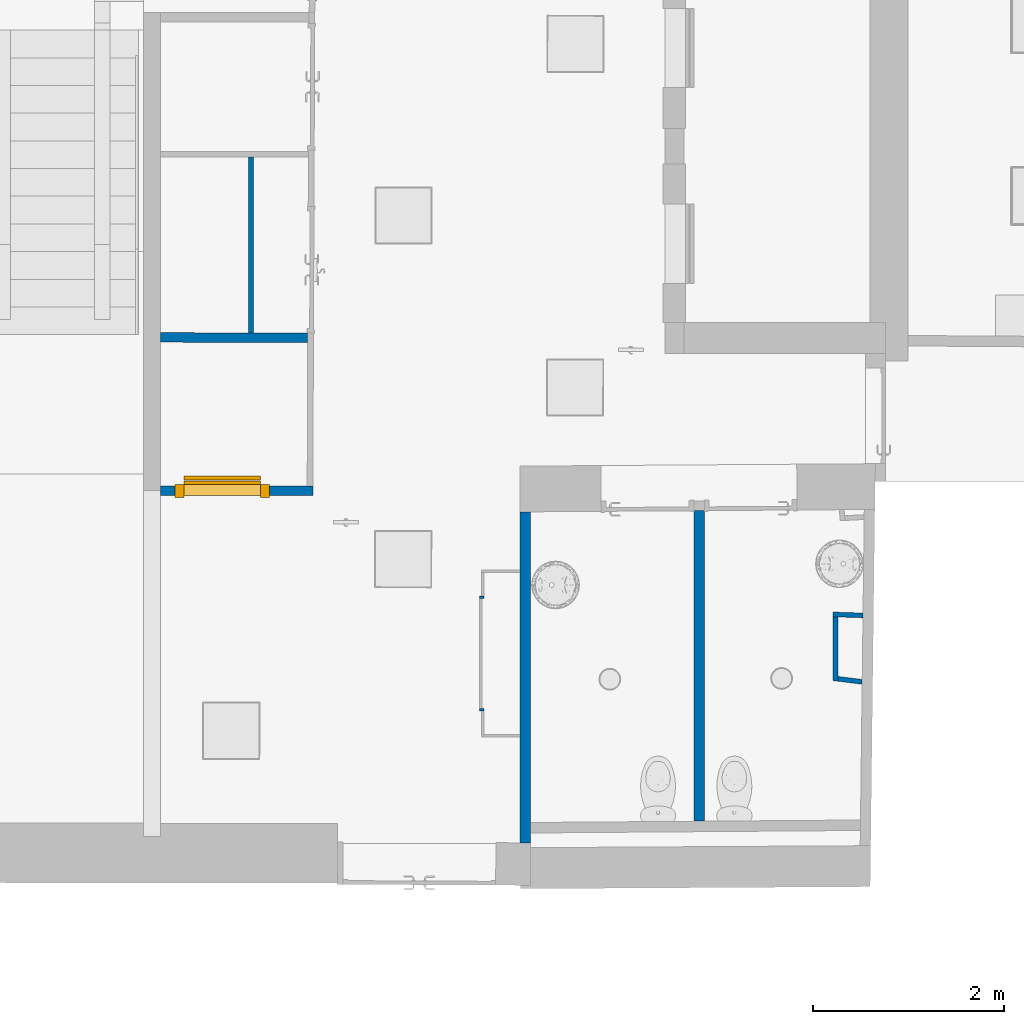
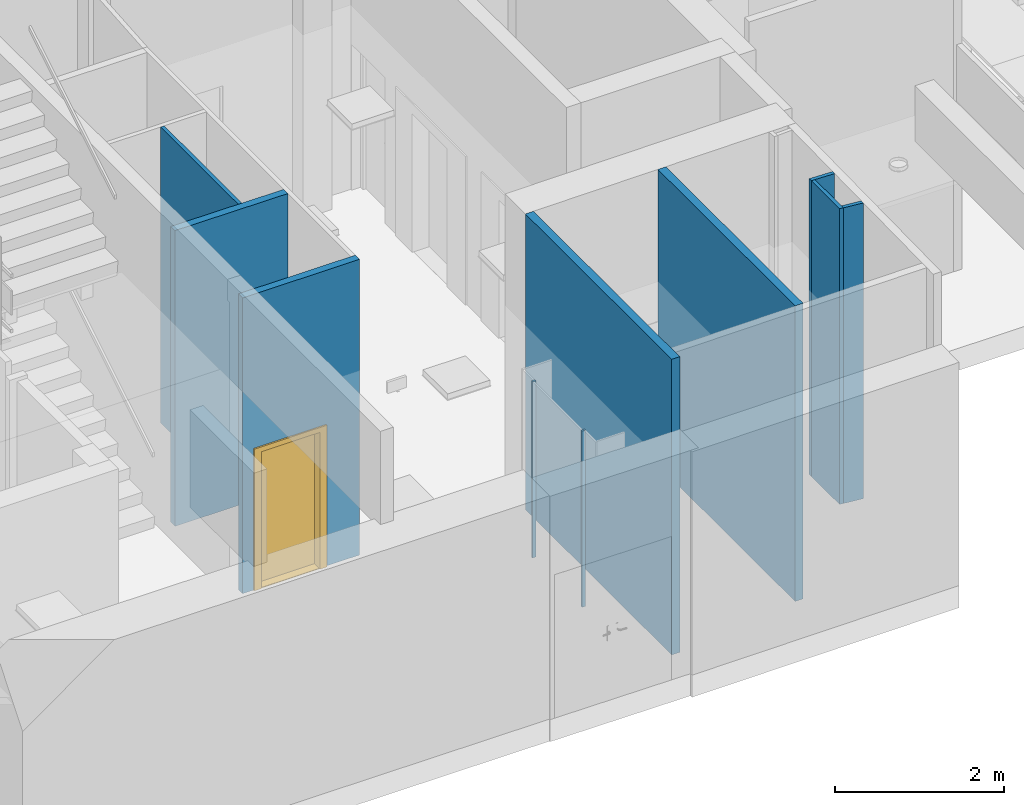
# One storey, part 28 of 128: 10 walls, 1 door, 1 opening.
"""IFC2X3 building model written with IfcOpenShell, lengths in metres."""

from ifc_helpers import new_model, entity, si_unit, converted_unit, derived_unit, direction, frame, frame_2d, origin, origin_2d_with_axis, place, context, subcontext, project, spatial, polyline, rectangle, outline, extrude, source, transform, mapped, material, layer, layer_set, layer_usage, type_object, type_shapes, element, fill, save


model = new_model("IFC2X3")

# Units and contexts
model_context = context("Model", 3, precision=1e-05, world=origin(), true_north=direction((6.123031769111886e-17, 1.0)))
body_context = subcontext(model_context, "Body", "Model", "MODEL_VIEW")
ifc_project = project(units=[si_unit("LENGTHUNIT", "METRE"), si_unit("AREAUNIT", "SQUARE_METRE"), converted_unit("PLANEANGLEUNIT", "DEGREE", entity("IfcPlaneAngleMeasure", 0.017453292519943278), si_unit("PLANEANGLEUNIT", "RADIAN"), dimensions=[0, 0, 0, 0, 0, 0, 0]), derived_unit("THERMALTRANSMITTANCEUNIT", [(si_unit("MASSUNIT", "GRAM", prefix="KILO"), 1), (si_unit("THERMODYNAMICTEMPERATUREUNIT", "KELVIN"), -1), (si_unit("TIMEUNIT", "SECOND"), -3)])], contexts=[model_context])

# Site, building, storey
site_placement = place(None, origin())
site = spatial("IfcSite", under=ifc_project, at=site_placement, Name="Default", CompositionType="ELEMENT")
building_placement = place(site_placement, origin())
building = spatial("IfcBuilding", under=site, at=building_placement, CompositionType="ELEMENT")
storey_placement = place(building_placement, origin())
storey = spatial("IfcBuildingStorey", under=building, at=storey_placement, Name="00_RDC CAF", CompositionType="ELEMENT", Elevation=2.4982504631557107e-13)

# Wall, opening, door
ifc_material_1 = material(Name="ARC - Cloison")
ifc_layer_1 = layer(ifc_material_1, 0.1)
ifc_layer_set_1 = layer_set([ifc_layer_1], Name="Mur de base:Cl_Platre_100mm")
ifc_layer_usage_1 = layer_usage(ifc_layer_set_1, "AXIS2", "POSITIVE", -0.05)
wall_type_1 = type_object("IfcWallType", Name="Mur de base:Cl_Platre_100mm", PredefinedType="STANDARD", material=ifc_layer_set_1)
wall_1_placement = place(storey_placement, frame((23.059127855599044, 130.11823933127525, 0.0)))
wall_1 = element("IfcWallStandardCase", 1, at=wall_1_placement, inside=storey, type_object=wall_type_1, material=ifc_layer_usage_1, Name="Mur de base:Cl_Platre_100mm", ObjectType="Mur de base:Cl_Platre_100mm", context=body_context, shape_type="SweptSolid", body=[
    extrude(outline(polyline([(0.0, -0.04999999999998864), (1.5963175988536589, -0.04999999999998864), (1.5966989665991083, 0.050000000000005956), (1.5366985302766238, 0.050000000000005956), (0.0, 0.050000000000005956), (0.0, 0.0), (0.0, -0.04999999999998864)])), origin(), (0.0, 0.0, 1.0), 4.278),
])
opening_placement = place(wall_1_placement, frame((-23.059127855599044, -130.11823933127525, 0.0)))
opening = element("IfcOpeningElement", 2, at=opening_placement, cuts=wall_1, Name="Mur de base:Cl_Platre_100mm", ObjectType="Opening", context=body_context, shape_type="SweptSolid", body=[
    extrude(rectangle(XDim=2.0600000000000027, YDim=0.9900000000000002, at=origin_2d_with_axis()), frame((23.70497733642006, 130.06823933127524, 1.019999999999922), z_axis=(0.0, 1.0, 0.0), x_axis=(0.0, 0.0, -1.0)), (0.0, 0.0, 1.0), 0.0999999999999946),
])
ifc_material_2 = material(Name="ARC - M.In - Blanc")
door_style = type_object("IfcDoorStyle", Name="P_Ascenseur:P_Int_Ascenseur_800x1980mm", ConstructionType="NOTDEFINED", OperationType="NOTDEFINED", ParameterTakesPrecedence=False, Sizeable=False, material=ifc_material_2)
shared_shape = source(origin(), body_context, "Body", "SweptSolid", [
    extrude(rectangle(XDim=0.4000000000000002, YDim=0.04000000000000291, at=frame_2d((-2.7755575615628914e-17, -8.673617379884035e-18), x_axis=(1.0, 0.0))), frame((0.6949999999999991, -0.03250000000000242, 0.010000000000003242), z_axis=(0.0, 0.0, 1.0), x_axis=(-1.0, 0.0, 0.0)), (0.0, 0.0, 1.0), 1.9799999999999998),
    extrude(rectangle(XDim=0.3999999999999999, YDim=0.040000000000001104, at=frame_2d((0.0, 8.673617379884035e-18), x_axis=(1.0, 0.0))), frame((0.2949999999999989, -0.032500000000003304, 0.010000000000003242), z_axis=(0.0, 0.0, 1.0), x_axis=(-1.0, 0.0, 0.0)), (0.0, 0.0, 1.0), 1.9799999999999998),
    extrude(outline(polyline([(-0.49499999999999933, -1.0425000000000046), (0.4949999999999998, -1.0425000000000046), (0.4949999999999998, 1.0075000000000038), (0.3999999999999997, 1.0075000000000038), (0.3999999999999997, -0.9725000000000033), (-0.4000000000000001, -0.9725000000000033), (-0.4000000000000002, 1.0075000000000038), (-0.4949999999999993, 1.0075000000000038), (-0.49499999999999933, -1.0425000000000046)])), frame((0.49499999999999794, -0.012500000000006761, 1.0175000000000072), z_axis=(0.0, 1.0, 0.0), x_axis=(1.0, 0.0, 0.0)), (0.0, 0.0, 1.0), 0.13250000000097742),
    extrude(rectangle(XDim=0.39999999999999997, YDim=0.039999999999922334, at=frame_2d((0.0, 8.673617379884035e-18), x_axis=(1.0, 0.0))), frame((0.6949999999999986, -0.08249999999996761, 0.010000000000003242), z_axis=(0.0, 0.0, 1.0), x_axis=(-1.0, 0.0, 0.0)), (0.0, 0.0, 1.0), 1.9799999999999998),
    extrude(rectangle(XDim=0.39999999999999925, YDim=0.03999999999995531, at=origin_2d_with_axis()), frame((0.2949999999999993, -0.08249999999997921, 0.010000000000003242), z_axis=(0.0, 0.0, 1.0), x_axis=(-1.0, 0.0, 0.0)), (0.0, 0.0, 1.0), 1.9799999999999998),
    extrude(rectangle(XDim=0.11250000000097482, YDim=0.9899999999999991, at=origin_2d_with_axis()), frame((0.49499999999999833, 0.04375000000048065, 0.0), z_axis=(0.0, 0.0, 1.0), x_axis=(0.0, 1.0, 0.0)), (0.0, 0.0, 1.0), 0.01),
])
type_shapes(door_style, [shared_shape])
door_placement = place(opening_placement, frame((24.199977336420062, 130.16823933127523, -0.010000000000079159), z_axis=(0.0, 0.0, 1.0), x_axis=(-1.0, 0.0, 0.0)))
door = element("IfcDoor", 3, at=door_placement, inside=storey, type_object=door_style, material=ifc_material_2, Name="P_Ascenseur:P_Int_Ascenseur_800x1980mm", ObjectType="P_Ascenseur:P_Int_Ascenseur_800x1980mm", OverallHeight=2.0600000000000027, OverallWidth=0.9900000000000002, context=body_context, shape_type="MappedRepresentation", body=[
    mapped(shared_shape, transform((0.0, 0.0, 0.0), scale=1.0)),
])
fill(opening, door)

# Walls
ifc_layer_usage_2 = layer_usage(ifc_layer_set_1, "AXIS2", "NEGATIVE", 0.05)
wall_2_placement = place(storey_placement, frame((23.058937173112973, 131.724534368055, 0.0), z_axis=(0.0, 0.0, 1.0), x_axis=(0.9999927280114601, -0.0038136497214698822, 0.0)))
element("IfcWallStandardCase", 4, at=wall_2_placement, inside=storey, type_object=wall_type_1, material=ifc_layer_usage_2, Name="Mur de base:Cl_Platre_100mm", ObjectType="Mur de base:Cl_Platre_100mm", context=body_context, shape_type="SweptSolid", body=[
    extrude(outline(polyline([(1.5428132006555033, -0.049999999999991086), (1.5428132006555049, 0.05000000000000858), (0.9730070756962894, 0.049999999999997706), (0.9230067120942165, 0.0500000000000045), (0.0, 0.05000000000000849), (0.00038136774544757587, -0.04999999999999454), (1.5428132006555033, -0.049999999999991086)])), origin(), (0.0, 0.0, 1.0), 4.277999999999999),
])
ifc_layer_2 = layer(ifc_material_1, 0.11)
ifc_layer_set_2 = layer_set([ifc_layer_2], Name="Mur de base:Cl_Platre_110mm")
ifc_layer_usage_3 = layer_usage(ifc_layer_set_2, "AXIS2", "POSITIVE", -0.055)
wall_type_2 = type_object("IfcWallType", Name="Mur de base:Cl_Platre_110mm", PredefinedType="STANDARD", material=ifc_layer_set_2)
wall_3_placement = place(storey_placement, frame((26.88337558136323, 129.8966310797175, 0.0), z_axis=(0.0, 0.0, 1.0), x_axis=(0.0, -1.0, 0.0)))
element("IfcWallStandardCase", 5, at=wall_3_placement, inside=storey, type_object=wall_type_2, material=ifc_layer_usage_3, Name="Mur de base:Cl_Platre_110mm", ObjectType="Mur de base:Cl_Platre_110mm", context=body_context, shape_type="SweptSolid", body=[
    extrude(outline(polyline([(3.467844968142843, -0.05500000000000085), (3.4683795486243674, 0.05500000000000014), (3.36494781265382, 0.05500000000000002), (3.25494463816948, 0.05499999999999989), (0.0, 0.05500000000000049), (0.0007541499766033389, -0.05500000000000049), (0.6093608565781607, -0.05499999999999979), (0.634360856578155, -0.054999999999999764), (2.335360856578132, -0.05500000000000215), (2.3603608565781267, -0.05500000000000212), (3.467844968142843, -0.05500000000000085)])), origin(), (0.0, 0.0, 1.0), 4.278),
])
ifc_layer_usage_4 = layer_usage(ifc_layer_set_2, "AXIS2", "POSITIVE", -0.055)
wall_4_placement = place(storey_placement, frame((28.702724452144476, 129.90910436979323, 0.0), z_axis=(0.0, 0.0, 1.0), x_axis=(0.0, -1.0, 0.0)))
element("IfcWallStandardCase", 6, at=wall_4_placement, inside=storey, type_object=wall_type_2, material=ifc_layer_usage_4, Name="Mur de base:Cl_Platre_110mm", ObjectType="Mur de base:Cl_Platre_110mm", context=body_context, shape_type="SweptSolid", body=[
    extrude(outline(polyline([(3.254431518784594, -0.05500000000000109), (3.2535958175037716, 0.05499999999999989), (0.0, 0.05500000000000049), (0.0007541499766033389, -0.05500000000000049), (3.254431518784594, -0.05500000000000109)])), origin(), (0.0, 0.0, 1.0), 4.278),
])
ifc_layer_3 = layer(ifc_material_1, 0.05)
ifc_layer_set_3 = layer_set([ifc_layer_3], Name="Mur de base:Cl_Platre_50mm_Gaine")
ifc_layer_usage_5 = layer_usage(ifc_layer_set_3, "AXIS2", "POSITIVE", -0.025)
wall_type_3 = type_object("IfcWallType", Name="Mur de base:Cl_Platre_50mm_Gaine", PredefinedType="STANDARD", material=ifc_layer_set_3)
wall_5_placement = place(storey_placement, frame((30.420351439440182, 128.8109963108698, 0.0), z_axis=(0.0, 0.0, 1.0), x_axis=(-0.999390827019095, 0.03489949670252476, 0.0)))
element("IfcWallStandardCase", 7, at=wall_5_placement, inside=storey, type_object=wall_type_3, material=ifc_layer_usage_5, Name="Mur de base:Cl_Platre_50mm_Gaine", ObjectType="Mur de base:Cl_Platre_50mm_Gaine", context=body_context, shape_type="SweptSolid", body=[
    extrude(outline(polyline([(0.31565014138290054, -0.02500000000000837), (0.3139041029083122, 0.024999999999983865), (0.2638736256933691, 0.0249999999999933), (0.0, 0.024999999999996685), (0.0011359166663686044, -0.02500000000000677), (0.31565014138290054, -0.02500000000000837)])), origin(), (0.0, 0.0, 1.0), 4.277999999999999),
])
ifc_layer_usage_6 = layer_usage(ifc_layer_set_3, "AXIS2", "POSITIVE", -0.025)
wall_6_placement = place(storey_placement, frame((30.130766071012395, 128.79696663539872, 0.0), z_axis=(0.0, 0.0, 1.0), x_axis=(0.0, -1.0, 0.0)))
element("IfcWallStandardCase", 8, at=wall_6_placement, inside=storey, type_object=wall_type_3, material=ifc_layer_usage_6, Name="Mur de base:Cl_Platre_50mm_Gaine", ObjectType="Mur de base:Cl_Platre_50mm_Gaine", context=body_context, shape_type="SweptSolid", body=[
    extrude(outline(polyline([(0.6692435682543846, -0.025000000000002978), (0.6753827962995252, 0.02499999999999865), (0.6250073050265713, 0.02499999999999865), (0.0017460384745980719, 0.02499999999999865), (0.0, -0.025000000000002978), (0.6692435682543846, -0.025000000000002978)])), origin(), (0.0, 0.0, 1.0), 4.277999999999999),
])
ifc_layer_usage_7 = layer_usage(ifc_layer_set_3, "AXIS2", "POSITIVE", -0.025)
wall_7_placement = place(storey_placement, frame((30.152719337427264, 128.14714567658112, 0.0), z_axis=(0.0, 0.0, 1.0), x_axis=(0.9925461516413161, -0.12186934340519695, 0.0)))
element("IfcWallStandardCase", 9, at=wall_7_placement, inside=storey, type_object=wall_type_3, material=ifc_layer_usage_7, Name="Mur de base:Cl_Platre_50mm_Gaine", ObjectType="Mur de base:Cl_Platre_50mm_Gaine", context=body_context, shape_type="SweptSolid", body=[
    extrude(outline(polyline([(0.26328552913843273, -0.025000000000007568), (0.257764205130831, 0.02499999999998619), (0.0, 0.024999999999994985), (0.006139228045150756, -0.025000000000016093), (0.26328552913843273, -0.025000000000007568)])), origin(), (0.0, 0.0, 1.0), 4.277999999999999),
])
ifc_layer_usage_8 = layer_usage(ifc_layer_set_3, "AXIS2", "NEGATIVE", 0.025)
wall_8_placement = place(storey_placement, frame((24.00712785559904, 133.6131856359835, 0.0), z_axis=(0.0, 0.0, 1.0), x_axis=(0.0, -1.0, 0.0)))
element("IfcWallStandardCase", 10, at=wall_8_placement, inside=storey, type_object=wall_type_3, material=ifc_layer_usage_8, Name="Mur de base:Cl_Platre_50mm_Gaine", ObjectType="Mur de base:Cl_Platre_50mm_Gaine", context=body_context, shape_type="SweptSolid", body=[
    extrude(outline(polyline([(1.8421716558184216, -0.025000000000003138), (1.8423623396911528, 0.024999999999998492), (0.0, 0.02499999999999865), (0.0, -0.025000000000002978), (1.8421716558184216, -0.025000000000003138)])), origin(), (0.0, 0.0, 1.0), 4.277999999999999),
])
ifc_layer_4 = layer(ifc_material_1, 0.025)
ifc_layer_set_4 = layer_set([ifc_layer_4], Name="Mur de base:Cl_Bois_25mm")
ifc_layer_usage_9 = layer_usage(ifc_layer_set_4, "AXIS2", "NEGATIVE", 0.0125)
wall_type_4 = type_object("IfcWallType", Name="Mur de base:Cl_Bois_25mm", PredefinedType="STANDARD", material=ifc_layer_set_4)
wall_9_placement = place(storey_placement, frame((26.44837558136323, 127.82377022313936, 0.0), z_axis=(0.0, 0.0, 1.0), x_axis=(-1.0, 0.0, 0.0)))
element("IfcWallStandardCase", 11, at=wall_9_placement, inside=storey, type_object=wall_type_4, material=ifc_layer_usage_9, Name="Mur de base:Cl_Bois_25mm", ObjectType="Mur de base:Cl_Bois_25mm", context=body_context, shape_type="SweptSolid", body=[
    extrude(rectangle(XDim=0.04799999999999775, YDim=0.02500000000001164, at=frame_2d((0.023999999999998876, 0.0), x_axis=(-1.0, 0.0))), origin(), (0.0, 0.0, 1.0), 2.55),
])
ifc_layer_usage_10 = layer_usage(ifc_layer_set_4, "AXIS2", "POSITIVE", -0.0125)
wall_10_placement = place(storey_placement, frame((26.44837558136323, 128.99977022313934, 0.0), z_axis=(0.0, 0.0, 1.0), x_axis=(-1.0, 0.0, 0.0)))
element("IfcWallStandardCase", 12, at=wall_10_placement, inside=storey, type_object=wall_type_4, material=ifc_layer_usage_10, Name="Mur de base:Cl_Bois_25mm", ObjectType="Mur de base:Cl_Bois_25mm", context=body_context, shape_type="SweptSolid", body=[
    extrude(rectangle(XDim=0.04799999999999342, YDim=0.02500000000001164, at=frame_2d((0.02399999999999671, 0.0), x_axis=(-1.0, 0.0))), origin(), (0.0, 0.0, 1.0), 2.55),
])

save(model, "model.ifc")
